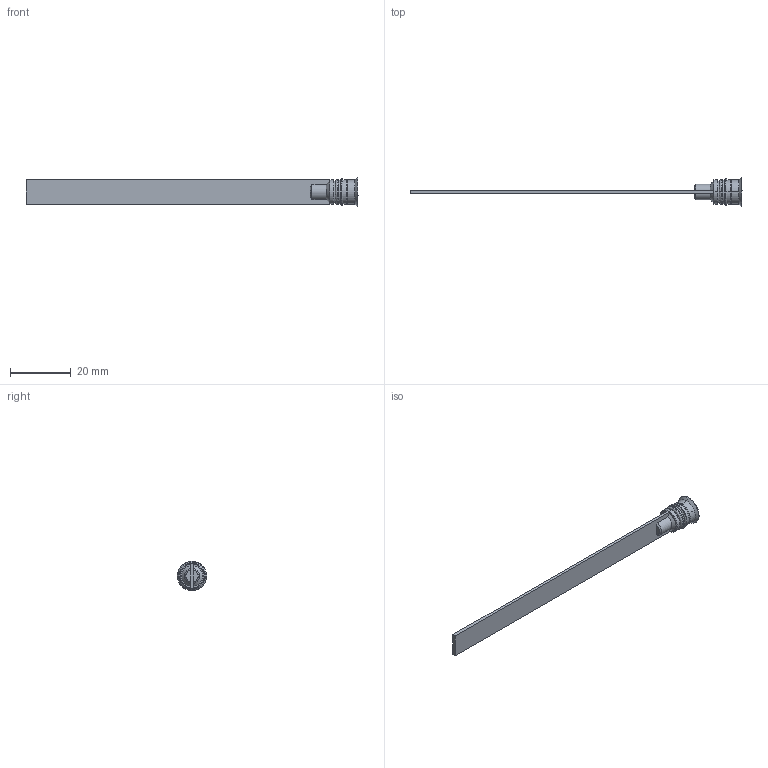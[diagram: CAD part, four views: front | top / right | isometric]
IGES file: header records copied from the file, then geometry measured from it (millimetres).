
Start section: START RECORD GO HERE.
Global section: file name: RL-8Fx100.igs; native system: DASSAULT SYSTEMES CATIA V5 R20 - www.3ds.com; preprocessor: CATIA Version 5 Release 20 ; author: Utente; organization: NB04-ASUS; date: 20210303.200734; units: millimetre
Bounding box: 109.5 x 9.6 x 9.6 mm (x, y, z)
Surface area: 2384.4 mm2 (no closed solid volume)
Topology: 0 solids, 0 shells, 73 faces, 400 edges, 400 vertices
Faces by surface type: revolution 44, plane 29
